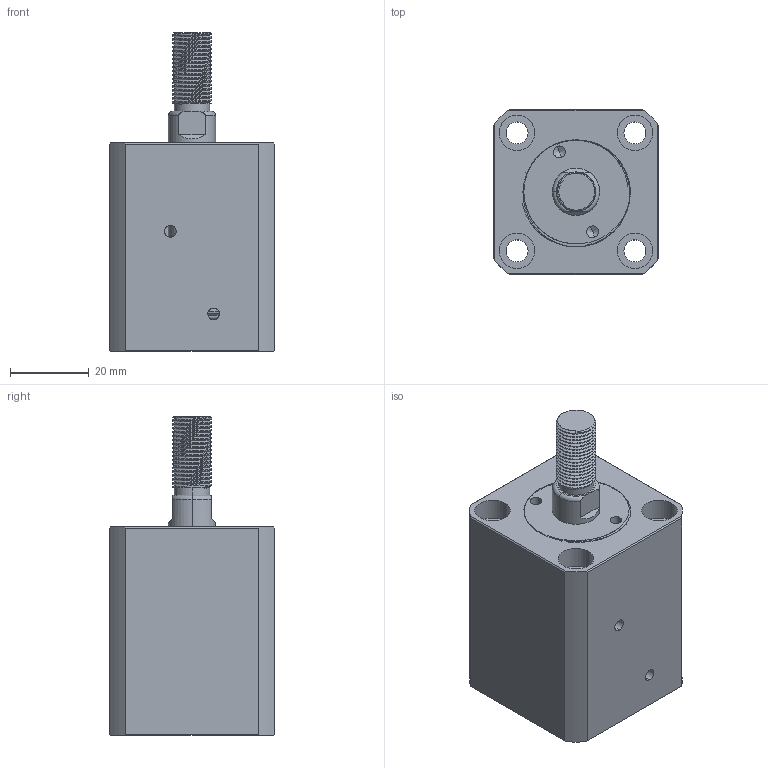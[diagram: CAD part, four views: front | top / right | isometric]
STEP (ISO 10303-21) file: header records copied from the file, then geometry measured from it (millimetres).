
FILE_DESCRIPTION (( 'STEP AP214' ), '1' );
FILE_NAME ('chtb-sdmb20x10w_asm.STEP', '2018-05-18T08:32:44', ( 'Windows' ), ( 'Microsoft' ), 'SwSTEP 2.0', 'SolidWorks 2015', '' );
FILE_SCHEMA (( 'AUTOMOTIVE_DESIGN' ));
Length unit declared in the file: millimetre
Products named in the file (4): QG_3; CHTB-SDMB20X10WHSG; CHTB-SDMB20X10NBT; chtb-sdmb20x10w_asm
Assembly tree (3 placements, depth 2):
  chtb-sdmb20x10w_asm
    CHTB-SDMB20X10NBT
    CHTB-SDMB20X10WHSG
    QG_3
Bounding box: 42 x 42 x 81 mm (x, y, z)
Volume: 83463.1 mm3; surface area: 28325.2 mm2
Topology: 3 solids, 3 shells, 243 faces, 660 edges, 439 vertices
Faces by surface type: cylinder 143, plane 47, torus 25, bspline 23, cone 5
Entity records: 14768 total; most frequent: CARTESIAN_POINT 8984, ORIENTED_EDGE 1312, DIRECTION 1058, EDGE_CURVE 656, VERTEX_POINT 439, AXIS2_PLACEMENT_3D 434, EDGE_LOOP 281, FACE_OUTER_BOUND 243
